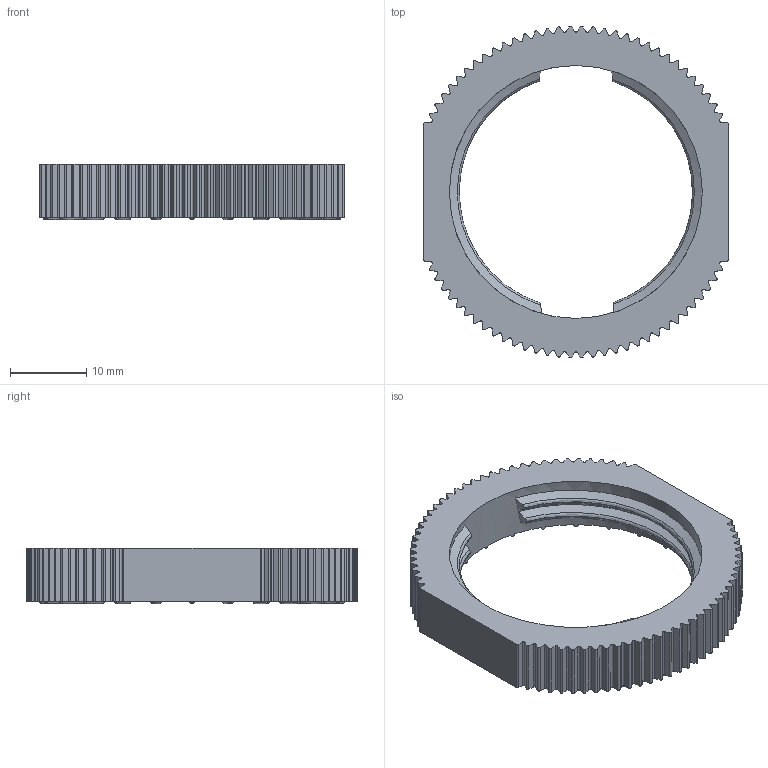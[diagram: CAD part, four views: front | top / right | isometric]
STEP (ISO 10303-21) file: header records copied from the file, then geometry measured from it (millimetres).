
FILE_DESCRIPTION(('Creo Elements/Direct Modeling STEP Export'),'2;1');
FILE_NAME('20130717_OA-2_LN-CTG28P.stp','2015-04-14T13:28:45',(''),(''),'PTC Creo Elements/Direct Modeling STEP processor for AP214 (Solid Model)','PTC Creo Elements/Direct Modeling 19.0A 04-Oct-2014 (C) Parametric Technology GmbH','');
FILE_SCHEMA(('AUTOMOTIVE_DESIGN { 1 0 10303 214 1 1 1 1 }'));
Length unit declared in the file: millimetre
Products named in the file (2): LN-CTG28P
Assembly tree (1 placements, depth 2):
  LN-CTG28P
    LN-CTG28P
Bounding box: 40 x 43.62 x 7.3 mm (x, y, z)
Volume: 4072.8 mm3; surface area: 3391.8 mm2
Topology: 1 solids, 1 shells, 420 faces, 1232 edges, 814 vertices
Faces by surface type: plane 168, cylinder 146, bspline 106
Entity records: 25788 total; most frequent: CARTESIAN_POINT 15459, ORIENTED_EDGE 2464, DIRECTION 1792, EDGE_CURVE 1232, VERTEX_POINT 814, AXIS2_PLACEMENT_3D 598, VECTOR 596, LINE 596
